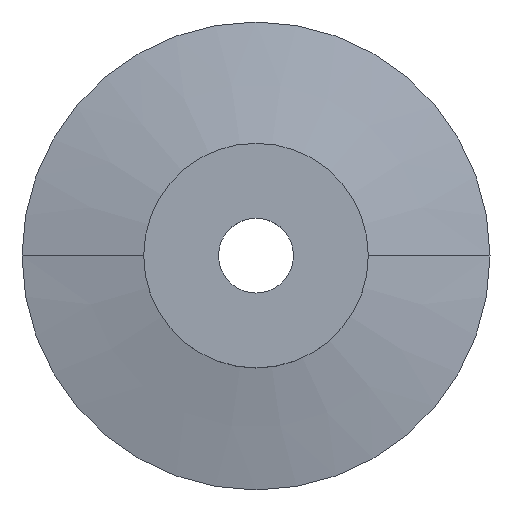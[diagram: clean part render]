
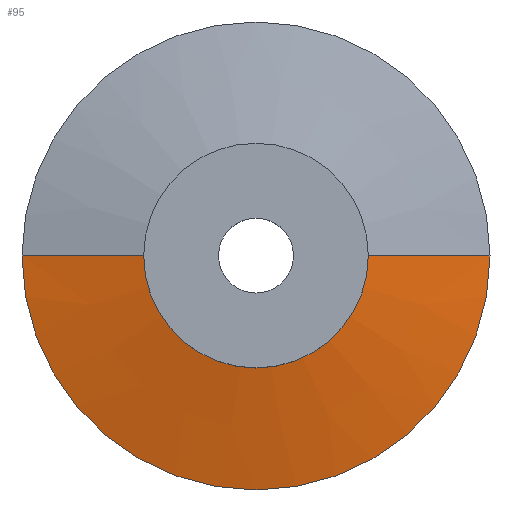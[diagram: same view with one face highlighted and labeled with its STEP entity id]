
A CAD part, top view. The second image highlights one B-rep face of the part: STEP entity #95.
In plain terms, the highlighted conical face has half-angle 77.716 degrees and reference radius 25 mm.
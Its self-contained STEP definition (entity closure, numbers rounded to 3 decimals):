
#43 = CARTESIAN_POINT ( 'NONE',  ( -25., 0., -24. ) ) ;
#45 = EDGE_CURVE ( 'NONE', #253, #184, #877, .T. ) ;
#95 = ADVANCED_FACE ( 'NONE', ( #277 ), #743, .T. ) ;
#141 = LINE ( 'NONE', #694, #187 ) ;
#162 = CARTESIAN_POINT ( 'NONE',  ( 0., 0., -24. ) ) ;
#172 = LINE ( 'NONE', #43, #873 ) ;
#184 = VERTEX_POINT ( 'NONE', #732 ) ;
#187 = VECTOR ( 'NONE', #335, 1000. ) ;
#212 = DIRECTION ( 'NONE',  ( -0.977, 0., -0.213 ) ) ;
#213 = VERTEX_POINT ( 'NONE', #897 ) ;
#216 = EDGE_CURVE ( 'NONE', #213, #351, #616, .T. ) ;
#236 = DIRECTION ( 'NONE',  ( -1., 0., 0. ) ) ;
#253 = VERTEX_POINT ( 'NONE', #698 ) ;
#277 = FACE_OUTER_BOUND ( 'NONE', #764, .T. ) ;
#318 = ORIENTED_EDGE ( 'NONE', *, *, #934, .T. ) ;
#335 = DIRECTION ( 'NONE',  ( 0.977, 0., -0.213 ) ) ;
#339 = DIRECTION ( 'NONE',  ( 1., 0., 0. ) ) ;
#350 = AXIS2_PLACEMENT_3D ( 'NONE', #549, #788, #236 ) ;
#351 = VERTEX_POINT ( 'NONE', #864 ) ;
#385 = AXIS2_PLACEMENT_3D ( 'NONE', #946, #448, #671 ) ;
#448 = DIRECTION ( 'NONE',  ( 0., 0., 1. ) ) ;
#484 = ORIENTED_EDGE ( 'NONE', *, *, #216, .T. ) ;
#549 = CARTESIAN_POINT ( 'NONE',  ( 0., 0., -24. ) ) ;
#616 = CIRCLE ( 'NONE', #842, 25. ) ;
#671 = DIRECTION ( 'NONE',  ( 1., 0., 0. ) ) ;
#694 = CARTESIAN_POINT ( 'NONE',  ( 25., 0., -24. ) ) ;
#698 = CARTESIAN_POINT ( 'NONE',  ( -5.151, 0., -19.678 ) ) ;
#732 = CARTESIAN_POINT ( 'NONE',  ( 5.151, 0., -19.678 ) ) ;
#742 = EDGE_CURVE ( 'NONE', #184, #351, #141, .T. ) ;
#743 = CONICAL_SURFACE ( 'NONE', #350, 25., 1.356 ) ;
#764 = EDGE_LOOP ( 'NONE', ( #906, #767, #318, #484 ) ) ;
#767 = ORIENTED_EDGE ( 'NONE', *, *, #45, .F. ) ;
#788 = DIRECTION ( 'NONE',  ( 0., 0., -1. ) ) ;
#835 = DIRECTION ( 'NONE',  ( 0., 0., 1. ) ) ;
#842 = AXIS2_PLACEMENT_3D ( 'NONE', #162, #835, #339 ) ;
#864 = CARTESIAN_POINT ( 'NONE',  ( 25., 0., -24. ) ) ;
#873 = VECTOR ( 'NONE', #212, 1000. ) ;
#877 = CIRCLE ( 'NONE', #385, 5.151 ) ;
#897 = CARTESIAN_POINT ( 'NONE',  ( -25., 0., -24. ) ) ;
#906 = ORIENTED_EDGE ( 'NONE', *, *, #742, .F. ) ;
#934 = EDGE_CURVE ( 'NONE', #253, #213, #172, .T. ) ;
#946 = CARTESIAN_POINT ( 'NONE',  ( 0., 0., -19.678 ) ) ;
